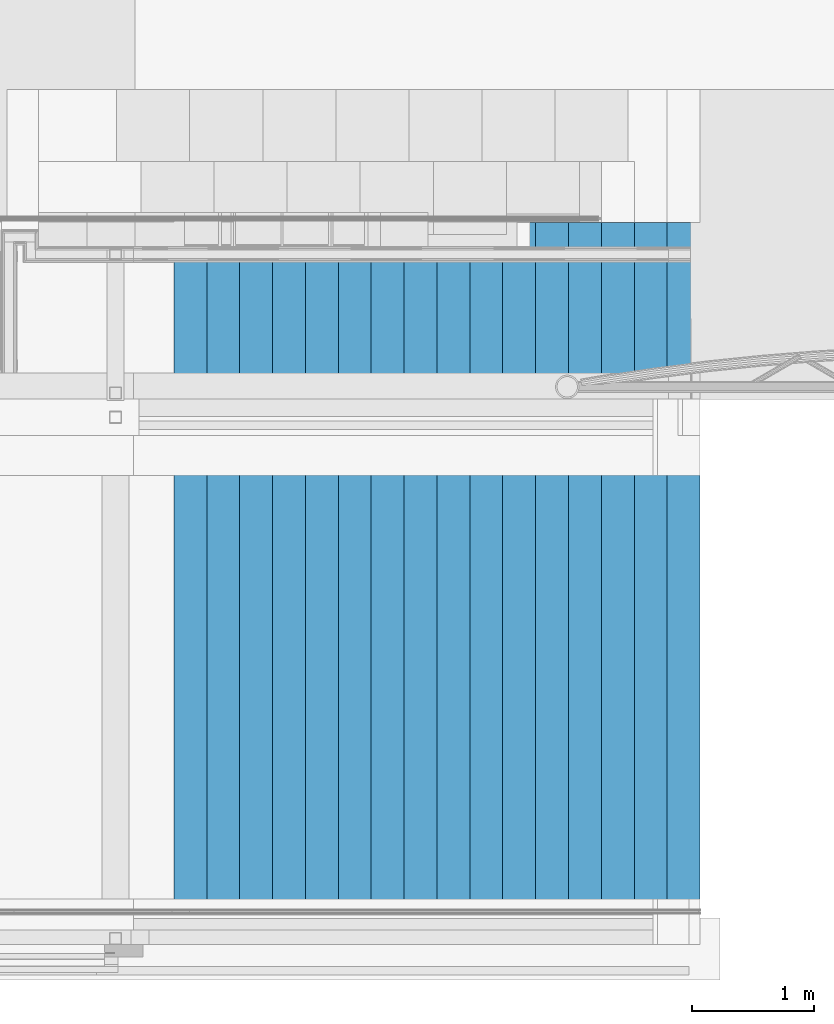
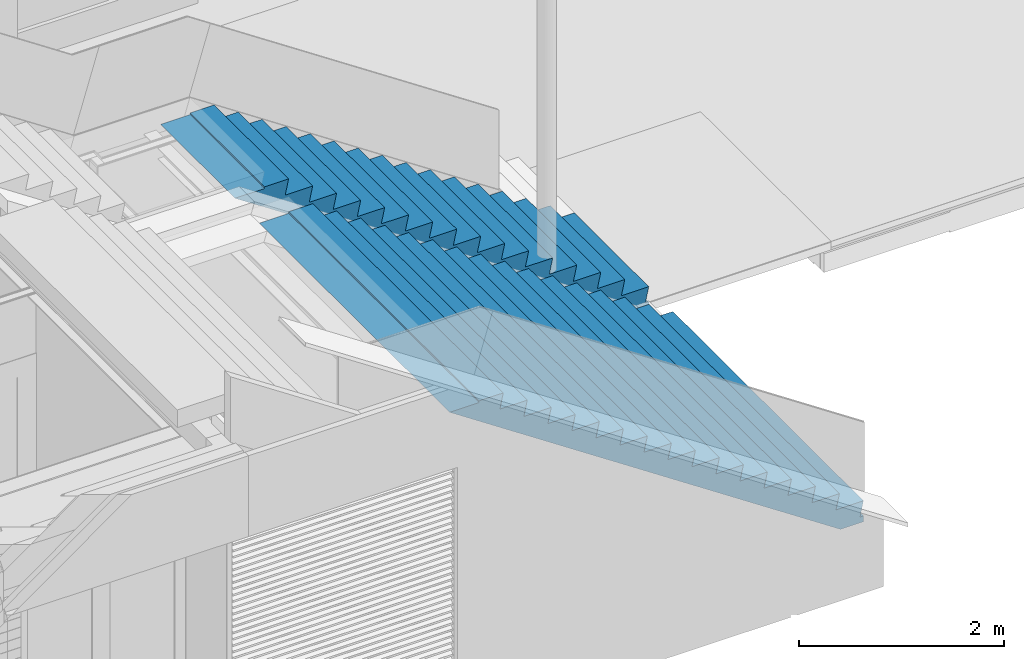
# One storey, part 28 of 165: 2 stair flights, 2 elements without a shape of their own.
"""IFC2X3 building model written with IfcOpenShell, lengths in millimetres."""

from ifc_helpers import new_model, entity, si_unit, converted_unit, derived_unit, money_unit, direction, frame, origin_with_axes, place, context, subcontext, project, spatial, faceted_brep, material, type_object, element, aggregate, save


model = new_model("IFC2X3")

# Units and contexts
model_context = context("Model", 3, precision=0.01, world=origin_with_axes(), true_north=direction((0.0, 1.0)))
body_context = subcontext(model_context, "Body", "Model", "MODEL_VIEW")
ifc_project = project(units=[si_unit("LENGTHUNIT", "METRE", prefix="MILLI"), si_unit("AREAUNIT", "SQUARE_METRE"), si_unit("VOLUMEUNIT", "CUBIC_METRE"), converted_unit("PLANEANGLEUNIT", "DEGREE", entity("IfcPlaneAngleMeasure", 0.0174532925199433), si_unit("PLANEANGLEUNIT", "RADIAN"), dimensions=[0, 0, 0, 0, 0, 0, 0]), money_unit("EUR"), converted_unit("TIMEUNIT", "Year", entity("IfcTimeMeasure", 31556926.0), si_unit("TIMEUNIT", "SECOND"), dimensions=[0, 0, 1, 0, 0, 0, 0]), si_unit("MASSUNIT", "GRAM", prefix="KILO"), si_unit("THERMODYNAMICTEMPERATUREUNIT", "DEGREE_CELSIUS"), si_unit("LUMINOUSINTENSITYUNIT", "LUMEN"), si_unit("ENERGYUNIT", "JOULE", prefix="MEGA"), derived_unit("THERMALCONDUCTANCEUNIT", [(si_unit("POWERUNIT", "WATT"), 1), (si_unit("LENGTHUNIT", "METRE"), -1), (si_unit("THERMODYNAMICTEMPERATUREUNIT", "KELVIN"), -1)]), derived_unit("SPECIFICHEATCAPACITYUNIT", [(si_unit("ENERGYUNIT", "JOULE"), 1), (si_unit("MASSUNIT", "GRAM", prefix="KILO"), -1), (si_unit("THERMODYNAMICTEMPERATUREUNIT", "KELVIN"), -1)]), derived_unit("MASSDENSITYUNIT", [(si_unit("MASSUNIT", "GRAM", prefix="KILO"), 1), (si_unit("VOLUMEUNIT", "CUBIC_METRE"), -1)])], contexts=[model_context])

# Site, building, storey
site_placement = place(None, origin_with_axes())
site = spatial("IfcSite", under=ifc_project, at=site_placement, Name="Site", CompositionType="ELEMENT")
building_placement = place(site_placement, origin_with_axes())
building = spatial("IfcBuilding", under=site, at=building_placement, Name="Naam gebouw", CompositionType="ELEMENT")
storey_placement = place(building_placement, origin_with_axes())
storey = spatial("IfcBuildingStorey", under=building, at=storey_placement, Name="Begane grond", CompositionType="ELEMENT", Elevation=0.0)

# Stair, stair flight
stair_1_placement = place(storey_placement, frame((18790.00009135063, 299.9999999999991, -10.00000000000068), z_axis=(0.0, 0.0, 1.0), x_axis=(1.0, 0.0, 0.0)))
stair_1 = element("IfcStair", 1, at=stair_1_placement, inside=storey, Name="24_Trap-x", ShapeType="NOTDEFINED")
ifc_material = material(Name="Beton gewapend prefab")
stair_flight_type = type_object("IfcStairFlightType", Name="IfcStairFlight", PredefinedType="NOTDEFINED")
stair_flight_1_placement = place(stair_1_placement, origin_with_axes())
stair_flight_1 = element("IfcStairFlight", 2, at=stair_flight_1_placement, type_object=stair_flight_type, material=ifc_material, Name="24_Trapconstructie-x", context=body_context, shape_type="Brep", body=[
    faceted_brep([(-4320.000216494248, 3709.999778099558, 2860.0), (-4319.999995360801, -0.0002255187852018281, 2860.0), (-4319.999999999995, -0.0002219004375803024, 2880.0), (-4320.000190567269, 3709.999778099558, 2880.0), (-4652.759986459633, 3709.999789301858, 2860.0), (-4652.759791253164, -0.000234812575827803, 2860.0), (-4319.999995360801, -0.0002255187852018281, 2638.160132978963), (-4229.999999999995, -0.0002311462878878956, 2578.160136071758), (-4139.999999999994, -0.0002265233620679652, 2518.160136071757), (-4049.999999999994, -0.0002219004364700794, 2458.160136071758), (-3959.999999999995, -0.0002034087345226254, 2398.160136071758), (-3869.999999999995, -0.000198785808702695, 2338.160136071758), (-3779.999999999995, -0.0002060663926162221, 2278.160136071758), (-3689.999999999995, -0.0002014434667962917, 2218.160136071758), (-3599.999999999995, -0.0001968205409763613, 2158.160136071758), (-3509.999999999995, -0.0001921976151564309, 2098.160136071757), (-3419.999999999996, -0.0001756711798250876, 2038.160136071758), (-3329.999999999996, -0.0001710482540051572, 1978.160136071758), (-3239.999999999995, -0.0001783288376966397, 1918.160136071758), (-3149.999999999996, -0.0001737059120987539, 1858.160136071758), (-3059.999999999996, -0.0001690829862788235, 1798.160136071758), (-2969.999999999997, -0.0001644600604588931, 1738.160136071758), (-2879.999999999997, -0.0001479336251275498, 1678.160136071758), (-2789.999999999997, -0.0001433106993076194, 1618.160136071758), (-2699.999999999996, -0.0001505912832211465, 1558.160136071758), (-2609.999999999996, -0.0001459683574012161, 1498.160136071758), (-2519.999999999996, -0.0001413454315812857, 1438.160136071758), (-2429.999999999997, -0.0001367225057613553, 1378.160136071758), (-2339.999999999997, -0.000120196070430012, 1318.160136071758), (-2249.999999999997, -0.0001155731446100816, 1258.160136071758), (-2159.999999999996, -0.0001228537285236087, 1198.160136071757), (-2069.999999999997, -0.0001182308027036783, 1138.160136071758), (-1979.999999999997, -0.0001136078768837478, 1078.160136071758), (-1889.999999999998, -0.0001089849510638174, 1018.160136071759), (-1799.999999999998, -9.245851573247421e-05, 958.160136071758), (-1709.999999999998, -8.783558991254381e-05, 898.160136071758), (-1619.999999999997, -9.511617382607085e-05, 838.1601360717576), (-1529.999999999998, -9.049324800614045e-05, 778.1601360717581), (-1439.999999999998, -8.587032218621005e-05, 718.1601360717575), (-1349.999999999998, -8.124739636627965e-05, 658.160136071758), (-1259.999999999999, -6.47209608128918e-05, 598.1601360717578), (-1169.999999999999, -6.009803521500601e-05, 538.1601360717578), (-1079.999999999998, -6.737861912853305e-05, 478.1601360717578), (-989.9999999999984, -6.275569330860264e-05, 418.1601360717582), (-899.9999999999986, -5.813276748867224e-05, 358.1601360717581), (-809.9999999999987, -5.350984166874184e-05, 298.1601360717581), (-719.9999999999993, -3.698340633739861e-05, 238.160136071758), (-629.9999999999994, -3.23604805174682e-05, 178.1601360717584), (-539.9999999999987, -3.964106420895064e-05, 118.1601360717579), (-449.9999999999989, -3.501813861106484e-05, 58.16013607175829), (-359.9999999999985, -3.039521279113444e-05, -1.839863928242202), (-269.9999999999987, -2.577228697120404e-05, -61.83986392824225), (-257.7597958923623, -2.352465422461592e-05, -70.00000000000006), (0.0, 0.0, -70.00000000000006), (0.0, 0.0, 0.0), (-38.26018110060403, -3.442688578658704e-06, 0.0), (0.0, 0.0, 179.9999999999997), (-308.2601811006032, -1.559012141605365e-05, 179.9999999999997), (-269.9999999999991, -1.38687772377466e-05, 359.9999999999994), (-578.2601811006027, -3.118024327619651e-05, 359.9999999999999), (-539.9999999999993, -2.77375546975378e-05, 539.9999999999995), (-848.2601811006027, -4.332767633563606e-05, 540.0), (-809.9999999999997, -4.160633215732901e-05, 719.999999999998), (-1118.260181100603, -5.891779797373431e-05, 719.9999999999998), (-1079.999999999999, -5.547510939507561e-05, 899.9999999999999), (-1388.260181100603, -7.106523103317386e-05, 899.9999999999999), (-1349.999999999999, -6.934388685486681e-05, 1080.0), (-1658.260181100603, -8.665535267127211e-05, 1080.0), (-1619.999999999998, -8.321266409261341e-05, 1260.0), (-1928.260181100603, -9.880278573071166e-05, 1260.0), (-1889.999999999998, -9.708144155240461e-05, 1440.0), (-2198.260181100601, -0.0001143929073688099, 1440.0), (-2159.999999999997, -0.0001109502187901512, 1620.0), (-2468.2601811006, -0.0001265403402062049, 1620.0), (-2429.999999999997, -0.0001248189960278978, 1799.999999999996), (-2738.260181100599, -0.0001421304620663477, 1800.0), (-2699.999999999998, -0.000138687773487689, 1979.999999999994), (-3008.260181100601, -0.0001542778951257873, 1980.0), (-2969.999999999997, -0.0001525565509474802, 2160.0), (-3278.260181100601, -0.0001698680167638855, 2160.0), (-3239.999999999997, -0.0001664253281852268, 2339.999999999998), (-3548.2601811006, -0.0001820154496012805, 2340.0), (-3509.999999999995, -0.0001802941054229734, 2520.0), (-3818.260181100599, -0.0001978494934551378, 2520.0), (-3779.999999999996, -0.0001941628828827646, 2699.999999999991), (-4088.260181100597, -0.0002099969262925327, 2700.0), (-4049.999999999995, -0.0002080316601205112, 2879.999999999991), (-4050.000190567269, 3709.999791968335, 2880.0), (-4088.260371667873, 3709.999791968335, 2700.0), (-3780.000190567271, 3709.999805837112, 2699.999999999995), (-3818.260371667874, 3709.999805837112, 2520.0), (-3510.00019056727, 3709.99981970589, 2520.0), (-3548.260371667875, 3709.99981970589, 2340.0), (-3240.000190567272, 3709.999833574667, 2340.0), (-3278.260371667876, 3709.999833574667, 2160.0), (-2970.000190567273, 3709.999847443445, 2160.0), (-3008.260371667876, 3709.999847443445, 1980.0), (-2700.000190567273, 3709.999861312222, 1979.999999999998), (-2738.260371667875, 3709.999861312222, 1800.0), (-2430.000190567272, 3709.999875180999, 1800.0), (-2468.260371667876, 3709.999875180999, 1620.0), (-2160.000190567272, 3709.999889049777, 1620.0), (-2198.260371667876, 3709.999889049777, 1440.0), (-1890.000190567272, 3709.999902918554, 1440.0), (-1928.260371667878, 3709.999902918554, 1260.0), (-1620.000190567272, 3709.999916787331, 1260.0), (-1658.260371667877, 3709.999916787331, 1080.0), (-1350.000190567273, 3709.999930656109, 1080.0), (-1388.260371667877, 3709.999930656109, 899.9999999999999), (-1080.000190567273, 3709.999944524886, 899.9999999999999), (-1118.260371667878, 3709.999944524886, 719.9999999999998), (-810.0001905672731, 3709.999958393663, 719.9999999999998), (-848.2603716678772, 3709.999958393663, 540.0), (-540.0001905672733, 3709.999972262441, 540.0), (-578.2603716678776, 3709.999972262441, 359.9999999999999), (-270.0001905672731, 3709.999986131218, 359.9999999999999), (-308.2603716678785, 3709.999986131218, 179.9999999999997), (-0.0001905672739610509, 3709.999999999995, 179.9999999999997), (-38.26037166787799, 3709.999999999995, 0.0), (-0.0001905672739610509, 3709.999999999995, 0.0), (-0.0001905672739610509, 3709.999999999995, -70.00000000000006), (-257.7599864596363, 3709.999986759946, -70.00000000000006), (-270.0001905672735, 3709.999986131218, -61.83986392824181), (-360.0001905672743, 3709.999997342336, -1.839863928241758), (-450.0001905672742, 3709.99999271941, 58.16013607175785), (-540.000190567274, 3709.999988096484, 118.1601360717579), (-630.0001905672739, 3709.99998347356, 178.160136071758), (-720.0001905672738, 3709.999978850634, 238.160136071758), (-810.0001905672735, 3709.999974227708, 298.1601360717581), (-900.0001905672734, 3709.999969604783, 358.1601360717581), (-990.0001905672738, 3709.999964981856, 418.1601360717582), (-1080.000190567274, 3709.99996035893, 478.1601360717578), (-1170.000190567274, 3709.999955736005, 538.1601360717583), (-1260.000190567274, 3709.999951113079, 598.1601360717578), (-1350.000190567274, 3709.999946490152, 658.160136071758), (-1440.000190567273, 3709.999941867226, 718.160136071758), (-1530.000190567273, 3709.9999372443, 778.1601360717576), (-1620.000190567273, 3709.999932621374, 838.1601360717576), (-1710.000190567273, 3709.999927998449, 898.1601360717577), (-1800.000190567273, 3709.999923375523, 958.160136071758), (-1890.000190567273, 3709.999918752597, 1018.160136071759), (-1980.000190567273, 3709.999914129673, 1078.160136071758), (-2070.000190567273, 3709.999909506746, 1138.160136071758), (-2160.000190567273, 3709.999904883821, 1198.160136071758), (-2250.000190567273, 3709.999900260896, 1258.160136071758), (-2340.000190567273, 3709.99989563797, 1318.160136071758), (-2430.000190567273, 3709.999891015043, 1378.160136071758), (-2520.000190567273, 3709.999886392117, 1438.160136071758), (-2610.000190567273, 3709.999881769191, 1498.160136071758), (-2700.000190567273, 3709.999877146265, 1558.160136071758), (-2790.000190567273, 3709.999872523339, 1618.160136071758), (-2880.000190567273, 3709.999867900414, 1678.160136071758), (-2970.000190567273, 3709.999863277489, 1738.160136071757), (-3060.000190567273, 3709.999858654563, 1798.160136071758), (-3150.000190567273, 3709.999854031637, 1858.160136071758), (-3240.000190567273, 3709.999849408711, 1918.160136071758), (-3330.000190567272, 3709.999844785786, 1978.160136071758), (-3420.000190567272, 3709.99984016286, 2038.160136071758), (-3510.000190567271, 3709.999835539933, 2098.160136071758), (-3600.000190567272, 3709.999830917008, 2158.160136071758), (-3690.000190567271, 3709.999826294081, 2218.160136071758), (-3780.000190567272, 3709.999821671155, 2278.160136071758), (-3870.000190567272, 3709.99981704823, 2338.160136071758), (-3960.000190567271, 3709.999812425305, 2398.160136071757), (-4050.00019056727, 3709.999807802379, 2458.160136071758), (-4140.00019056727, 3709.999803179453, 2518.160136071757), (-4230.000190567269, 3709.999798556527, 2578.160136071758), (-4320.000216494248, 3709.999778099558, 2638.160153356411)], [[[0, 1, 2, 3]], [[1, 0, 4, 5]], [[6, 7, 8, 9, 10, 11, 12, 13, 14, 15, 16, 17, 18, 19, 20, 21, 22, 23, 24, 25, 26, 27, 28, 29, 30, 31, 32, 33, 34, 35, 36, 37, 38, 39, 40, 41, 42, 43, 44, 45, 46, 47, 48, 49, 50, 51, 52, 53, 54, 55, 56, 57, 58, 59, 60, 61, 62, 63, 64, 65, 66, 67, 68, 69, 70, 71, 72, 73, 74, 75, 76, 77, 78, 79, 80, 81, 82, 83, 84, 85, 86, 2, 1, 5]], [[3, 2, 86, 87]], [[0, 3, 87, 88, 89, 90, 91, 92, 93, 94, 95, 96, 97, 98, 99, 100, 101, 102, 103, 104, 105, 106, 107, 108, 109, 110, 111, 112, 113, 114, 115, 116, 117, 118, 119, 120, 121, 122, 123, 124, 125, 126, 127, 128, 129, 130, 131, 132, 133, 134, 135, 136, 137, 138, 139, 140, 141, 142, 143, 144, 145, 146, 147, 148, 149, 150, 151, 152, 153, 154, 155, 156, 157, 158, 159, 160, 161, 162, 163, 164, 165, 166, 167, 4]], [[167, 166, 7, 6, 5, 4]], [[7, 166, 165, 8]], [[8, 165, 164, 9]], [[9, 164, 163, 10]], [[10, 163, 162, 11]], [[11, 162, 161, 12]], [[12, 161, 160, 13]], [[13, 160, 159, 14]], [[14, 159, 158, 15]], [[15, 158, 157, 16]], [[16, 157, 156, 17]], [[17, 156, 155, 18]], [[18, 155, 154, 19]], [[19, 154, 153, 20]], [[20, 153, 152, 21]], [[21, 152, 151, 22]], [[22, 151, 150, 23]], [[23, 150, 149, 24]], [[24, 149, 148, 25]], [[25, 148, 147, 26]], [[26, 147, 146, 27]], [[27, 146, 145, 28]], [[28, 145, 144, 29]], [[29, 144, 143, 30]], [[30, 143, 142, 31]], [[31, 142, 141, 32]], [[32, 141, 140, 33]], [[33, 140, 139, 34]], [[34, 139, 138, 35]], [[35, 138, 137, 36]], [[36, 137, 136, 37]], [[37, 136, 135, 38]], [[38, 135, 134, 39]], [[39, 134, 133, 40]], [[40, 133, 132, 41]], [[41, 132, 131, 42]], [[42, 131, 130, 43]], [[43, 130, 129, 44]], [[44, 129, 128, 45]], [[45, 128, 127, 46]], [[46, 127, 126, 47]], [[47, 126, 125, 48]], [[48, 125, 124, 49]], [[49, 124, 123, 50]], [[50, 123, 122, 51]], [[51, 122, 121, 52]], [[121, 120, 53, 52]], [[53, 120, 119, 54]], [[118, 55, 54, 119]], [[56, 55, 118, 117]], [[56, 117, 116, 57]], [[58, 57, 116, 115]], [[58, 115, 114, 59]], [[60, 59, 114, 113]], [[60, 113, 112, 61]], [[62, 61, 112, 111]], [[62, 111, 110, 63]], [[64, 63, 110, 109]], [[64, 109, 108, 65]], [[66, 65, 108, 107]], [[66, 107, 106, 67]], [[68, 67, 106, 105]], [[68, 105, 104, 69]], [[70, 69, 104, 103]], [[70, 103, 102, 71]], [[72, 71, 102, 101]], [[72, 101, 100, 73]], [[74, 73, 100, 99]], [[74, 99, 98, 75]], [[76, 75, 98, 97]], [[76, 97, 96, 77]], [[78, 77, 96, 95]], [[78, 95, 94, 79]], [[80, 79, 94, 93]], [[80, 93, 92, 81]], [[82, 81, 92, 91]], [[82, 91, 90, 83]], [[84, 83, 90, 89]], [[84, 89, 88, 85]], [[86, 85, 88, 87]]]),
])
aggregate(stair_1, [stair_flight_1])

stair_2_placement = place(storey_placement, frame((18790.00009135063, 4480.000241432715, 0.0), z_axis=(0.0, 0.0, 1.0), x_axis=(1.0, 0.0, 0.0)))
stair_2 = element("IfcStair", 3, at=stair_2_placement, inside=storey, Name="24_Trap-x", ShapeType="NOTDEFINED")
stair_flight_2_placement = place(stair_2_placement, origin_with_axes())
stair_flight_2 = element("IfcStairFlight", 4, at=stair_flight_2_placement, type_object=stair_flight_type, material=ifc_material, Name="24_Trapconstructie-x", context=body_context, shape_type="Brep", body=[
    faceted_brep([(-4320.000071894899, 1449.999764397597, 2860.0), (-4319.999999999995, -0.0002089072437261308, 2860.0), (-4319.999999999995, -0.0002219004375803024, 2880.0), (-4320.000074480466, 1449.999778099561, 2880.0), (-4652.759867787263, 1449.99976460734, 2860.0), (-4652.759795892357, -0.0002348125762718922, 2860.0), (-4319.999999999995, -0.0002089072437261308, 2638.160136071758), (-4229.999999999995, -0.0002172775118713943, 2578.160136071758), (-4139.999999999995, -0.0002126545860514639, 2518.160136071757), (-4049.999999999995, -0.0002080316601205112, 2458.160136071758), (-3959.999999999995, -0.0002034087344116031, 2398.160136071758), (-3869.999999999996, -0.000198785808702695, 2338.160136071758), (-3779.999999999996, -0.0001941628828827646, 2278.160136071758), (-3689.999999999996, -0.0001895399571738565, 2218.160136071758), (-3599.999999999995, -0.0001849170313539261, 2158.160136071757), (-3509.999999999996, -0.0001802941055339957, 2098.160136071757), (-3419.999999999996, -0.0001756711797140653, 2038.160136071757), (-3329.999999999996, -0.0001710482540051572, 1978.160136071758), (-3239.999999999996, -0.0001664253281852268, 1918.160136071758), (-3149.999999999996, -0.0001618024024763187, 1858.160136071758), (-3059.999999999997, -0.0001571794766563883, 1798.160136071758), (-2969.999999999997, -0.0001525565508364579, 1738.160136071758), (-2879.999999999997, -0.0001479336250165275, 1678.160136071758), (-2789.999999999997, -0.0001433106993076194, 1618.160136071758), (-2699.999999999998, -0.000138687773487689, 1558.160136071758), (-2609.999999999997, -0.0001340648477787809, 1498.160136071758), (-2519.999999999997, -0.0001294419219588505, 1438.160136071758), (-2429.999999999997, -0.0001248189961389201, 1378.160136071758), (-2339.999999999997, -0.0001201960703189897, 1318.160136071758), (-2249.999999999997, -0.0001155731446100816, 1258.160136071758), (-2159.999999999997, -0.0001109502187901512, 1198.160136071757), (-2069.999999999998, -0.0001063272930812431, 1138.160136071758), (-1979.999999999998, -0.0001017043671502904, 1078.160136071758), (-1889.999999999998, -9.708144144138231e-05, 1018.160136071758), (-1799.999999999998, -9.245851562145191e-05, 958.1601360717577), (-1709.999999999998, -8.783558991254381e-05, 898.1601360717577), (-1619.999999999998, -8.321266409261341e-05, 838.1601360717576), (-1529.999999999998, -7.858973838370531e-05, 778.1601360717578), (-1439.999999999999, -7.39668124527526e-05, 718.1601360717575), (-1349.999999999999, -6.934388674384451e-05, 658.160136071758), (-1259.999999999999, -6.47209609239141e-05, 598.1601360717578), (-1169.999999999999, -6.009803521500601e-05, 538.1601360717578), (-1079.999999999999, -5.547510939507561e-05, 478.1601360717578), (-989.9999999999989, -5.085218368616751e-05, 418.1601360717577), (-899.999999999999, -4.62292577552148e-05, 358.1601360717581), (-809.9999999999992, -4.16063320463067e-05, 298.1601360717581), (-719.9999999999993, -3.69834062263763e-05, 238.160136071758), (-629.999999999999, -3.23604805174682e-05, 178.160136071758), (-539.9999999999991, -2.77375546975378e-05, 118.1601360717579), (-449.9999999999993, -2.31146288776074e-05, 58.16013607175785), (-359.9999999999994, -1.8491703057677e-05, -1.839863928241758), (-269.9999999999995, -1.38687773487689e-05, -61.83986392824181), (-257.7597958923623, -1.324004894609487e-05, -70.00000000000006), (0.0, 0.0, -70.00000000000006), (0.0, 0.0, 0.0), (-38.26018110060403, -1.721344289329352e-06, 0.0), (0.0, 0.0, 179.9999999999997), (-308.260181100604, -1.559012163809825e-05, 179.9999999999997), (-269.9999999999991, -1.38687773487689e-05, 359.9999999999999), (-578.260181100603, -2.945889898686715e-05, 359.9999999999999), (-539.9999999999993, -2.77375546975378e-05, 540.0), (-848.2601811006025, -4.332767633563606e-05, 540.0), (-809.9999999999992, -4.16063320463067e-05, 719.9999999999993), (-1118.260181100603, -5.719645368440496e-05, 719.9999999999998), (-1079.999999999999, -5.547510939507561e-05, 899.9999999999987), (-1388.260181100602, -7.106523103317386e-05, 899.9999999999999), (-1349.999999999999, -6.934388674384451e-05, 1079.999999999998), (-1658.260181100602, -8.493400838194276e-05, 1080.0), (-1619.999999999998, -8.321266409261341e-05, 1260.0), (-1928.260181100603, -9.880278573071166e-05, 1260.0), (-1889.999999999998, -9.708144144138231e-05, 1439.999999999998), (-2198.260181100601, -0.0001126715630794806, 1440.0), (-2159.999999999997, -0.0001109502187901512, 1619.999999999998), (-2468.260181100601, -0.0001265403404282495, 1620.0), (-2429.999999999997, -0.0001248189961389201, 1799.999999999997), (-2738.260181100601, -0.0001404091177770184, 1800.0), (-2699.999999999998, -0.000138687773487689, 1979.999999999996), (-3008.260181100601, -0.0001542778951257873, 1980.0), (-2969.999999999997, -0.0001525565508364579, 2159.999999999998), (-3278.2601811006, -0.0001681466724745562, 2160.0), (-3239.999999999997, -0.0001664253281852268, 2340.0), (-3548.2601811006, -0.0001820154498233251, 2340.0), (-3509.999999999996, -0.0001802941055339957, 2520.0), (-3818.260181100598, -0.000195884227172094, 2520.0), (-3779.999999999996, -0.0001941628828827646, 2699.999999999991), (-4088.260181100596, -0.0002099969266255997, 2700.0), (-4049.999999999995, -0.0002080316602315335, 2879.999999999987), (-4050.000074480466, 1449.999791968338, 2879.999999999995), (-4088.260255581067, 1449.999789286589, 2700.0), (-3780.000074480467, 1449.999805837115, 2699.999999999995), (-3818.26025558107, 1449.999803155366, 2520.0), (-3510.000074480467, 1449.999819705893, 2520.0), (-3548.260255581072, 1449.999817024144, 2340.0), (-3240.000074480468, 1449.99983357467, 2340.0), (-3278.260255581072, 1449.999830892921, 2160.0), (-2970.000074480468, 1449.999847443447, 2159.999999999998), (-3008.260255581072, 1449.999844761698, 1980.0), (-2700.000074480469, 1449.999861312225, 1980.0), (-2738.260255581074, 1449.999858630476, 1800.0), (-2430.000074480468, 1449.999875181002, 1799.999999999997), (-2468.260255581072, 1449.999872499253, 1620.0), (-2160.000074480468, 1449.999889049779, 1620.0), (-2198.260255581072, 1449.99988636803, 1440.0), (-1890.000074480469, 1449.999902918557, 1440.0), (-1928.260255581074, 1449.999900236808, 1260.0), (-1620.000074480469, 1449.999916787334, 1260.0), (-1658.260255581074, 1449.999914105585, 1080.0), (-1350.00007448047, 1449.999930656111, 1080.0), (-1388.260255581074, 1449.999927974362, 899.9999999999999), (-1080.00007448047, 1449.999944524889, 899.9999999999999), (-1118.260255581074, 1449.99994184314, 719.9999999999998), (-810.0000744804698, 1449.999958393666, 719.9999999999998), (-848.2602555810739, 1449.999955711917, 540.0), (-540.0000744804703, 1449.999972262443, 540.0), (-578.2602555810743, 1449.999969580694, 359.9999999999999), (-270.0000744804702, 1449.999986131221, 359.9999999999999), (-308.2602555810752, 1449.999983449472, 179.9999999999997), (-7.448047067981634e-05, 1449.999999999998, 179.9999999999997), (-38.26025558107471, 1449.999997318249, 0.0), (-7.448047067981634e-05, 1449.999999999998, 0.0), (-7.448047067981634e-05, 1449.999999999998, -70.00000000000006), (-257.7598703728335, 1449.999986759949, -70.00000000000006), (-270.0000744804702, 1449.99998613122, -61.83986392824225), (-360.0000744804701, 1449.999981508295, -1.839863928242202), (-450.0000744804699, 1449.99997688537, 58.16013607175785), (-540.0000744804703, 1449.999972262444, 118.1601360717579), (-630.0000744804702, 1449.999967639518, 178.160136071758), (-720.00007448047, 1449.999963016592, 238.160136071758), (-810.0000744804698, 1449.999958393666, 298.1601360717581), (-900.0000744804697, 1449.99995377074, 358.1601360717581), (-990.00007448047, 1449.999949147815, 418.1601360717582), (-1080.00007448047, 1449.999944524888, 478.1601360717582), (-1170.00007448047, 1449.999939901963, 538.1601360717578), (-1260.000074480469, 1449.999935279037, 598.1601360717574), (-1350.00007448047, 1449.999930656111, 658.160136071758), (-1440.000074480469, 1449.999926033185, 718.1601360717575), (-1530.000074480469, 1449.99992141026, 778.1601360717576), (-1620.000074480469, 1449.999916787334, 838.1601360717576), (-1710.000074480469, 1449.999912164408, 898.1601360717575), (-1800.000074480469, 1449.999907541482, 958.1601360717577), (-1890.000074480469, 1449.999902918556, 1018.160136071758), (-1980.000074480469, 1449.999898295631, 1078.160136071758), (-2070.000074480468, 1449.999893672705, 1138.160136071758), (-2160.000074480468, 1449.99988904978, 1198.160136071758), (-2250.000074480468, 1449.999884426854, 1258.160136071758), (-2340.000074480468, 1449.999879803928, 1318.160136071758), (-2430.000074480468, 1449.999875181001, 1378.160136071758), (-2520.000074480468, 1449.999870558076, 1438.160136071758), (-2610.000074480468, 1449.99986593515, 1498.160136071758), (-2700.000074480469, 1449.999861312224, 1558.160136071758), (-2790.000074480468, 1449.999856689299, 1618.160136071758), (-2880.000074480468, 1449.999852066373, 1678.160136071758), (-2970.000074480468, 1449.999847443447, 1738.160136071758), (-3060.000074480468, 1449.999842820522, 1798.160136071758), (-3150.000074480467, 1449.999838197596, 1858.160136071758), (-3240.000074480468, 1449.99983357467, 1918.160136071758), (-3330.000074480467, 1449.999828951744, 1978.160136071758), (-3420.000074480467, 1449.999824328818, 2038.160136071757), (-3510.000074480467, 1449.999819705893, 2098.160136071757), (-3600.000074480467, 1449.999815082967, 2158.160136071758), (-3690.000074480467, 1449.999810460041, 2218.160136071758), (-3780.000074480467, 1449.999805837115, 2278.160136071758), (-3870.000074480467, 1449.999801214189, 2338.160136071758), (-3960.000074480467, 1449.999796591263, 2398.160136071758), (-4050.000074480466, 1449.999791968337, 2458.160136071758), (-4140.000074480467, 1449.999787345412, 2518.160136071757), (-4230.000074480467, 1449.999782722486, 2578.160136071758), (-4320.000071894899, 1449.999764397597, 2638.160134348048)], [[[0, 1, 2, 3]], [[1, 0, 4, 5]], [[6, 7, 8, 9, 10, 11, 12, 13, 14, 15, 16, 17, 18, 19, 20, 21, 22, 23, 24, 25, 26, 27, 28, 29, 30, 31, 32, 33, 34, 35, 36, 37, 38, 39, 40, 41, 42, 43, 44, 45, 46, 47, 48, 49, 50, 51, 52, 53, 54, 55, 56, 57, 58, 59, 60, 61, 62, 63, 64, 65, 66, 67, 68, 69, 70, 71, 72, 73, 74, 75, 76, 77, 78, 79, 80, 81, 82, 83, 84, 85, 86, 2, 1, 5]], [[3, 2, 86, 87]], [[0, 3, 87, 88, 89, 90, 91, 92, 93, 94, 95, 96, 97, 98, 99, 100, 101, 102, 103, 104, 105, 106, 107, 108, 109, 110, 111, 112, 113, 114, 115, 116, 117, 118, 119, 120, 121, 122, 123, 124, 125, 126, 127, 128, 129, 130, 131, 132, 133, 134, 135, 136, 137, 138, 139, 140, 141, 142, 143, 144, 145, 146, 147, 148, 149, 150, 151, 152, 153, 154, 155, 156, 157, 158, 159, 160, 161, 162, 163, 164, 165, 166, 167, 4]], [[167, 166, 7, 6, 5, 4]], [[7, 166, 165, 8]], [[8, 165, 164, 9]], [[9, 164, 163, 10]], [[10, 163, 162, 11]], [[11, 162, 161, 12]], [[12, 161, 160, 13]], [[13, 160, 159, 14]], [[14, 159, 158, 15]], [[15, 158, 157, 16]], [[16, 157, 156, 17]], [[17, 156, 155, 18]], [[18, 155, 154, 19]], [[19, 154, 153, 20]], [[20, 153, 152, 21]], [[21, 152, 151, 22]], [[22, 151, 150, 23]], [[23, 150, 149, 24]], [[24, 149, 148, 25]], [[25, 148, 147, 26]], [[26, 147, 146, 27]], [[27, 146, 145, 28]], [[28, 145, 144, 29]], [[29, 144, 143, 30]], [[30, 143, 142, 31]], [[31, 142, 141, 32]], [[32, 141, 140, 33]], [[33, 140, 139, 34]], [[34, 139, 138, 35]], [[35, 138, 137, 36]], [[36, 137, 136, 37]], [[37, 136, 135, 38]], [[38, 135, 134, 39]], [[39, 134, 133, 40]], [[40, 133, 132, 41]], [[41, 132, 131, 42]], [[42, 131, 130, 43]], [[43, 130, 129, 44]], [[44, 129, 128, 45]], [[45, 128, 127, 46]], [[46, 127, 126, 47]], [[47, 126, 125, 48]], [[48, 125, 124, 49]], [[49, 124, 123, 50]], [[50, 123, 122, 51]], [[51, 122, 121, 52]], [[121, 120, 53, 52]], [[53, 120, 119, 54]], [[118, 55, 54, 119]], [[56, 55, 118, 117]], [[56, 117, 116, 57]], [[58, 57, 116, 115]], [[58, 115, 114, 59]], [[60, 59, 114, 113]], [[60, 113, 112, 61]], [[62, 61, 112, 111]], [[62, 111, 110, 63]], [[64, 63, 110, 109]], [[64, 109, 108, 65]], [[66, 65, 108, 107]], [[66, 107, 106, 67]], [[68, 67, 106, 105]], [[68, 105, 104, 69]], [[70, 69, 104, 103]], [[70, 103, 102, 71]], [[72, 71, 102, 101]], [[72, 101, 100, 73]], [[74, 73, 100, 99]], [[74, 99, 98, 75]], [[76, 75, 98, 97]], [[76, 97, 96, 77]], [[78, 77, 96, 95]], [[78, 95, 94, 79]], [[80, 79, 94, 93]], [[80, 93, 92, 81]], [[82, 81, 92, 91]], [[82, 91, 90, 83]], [[84, 83, 90, 89]], [[84, 89, 88, 85]], [[86, 85, 88, 87]]]),
])
aggregate(stair_2, [stair_flight_2])

save(model, "model.ifc")
